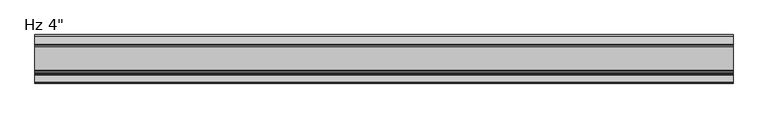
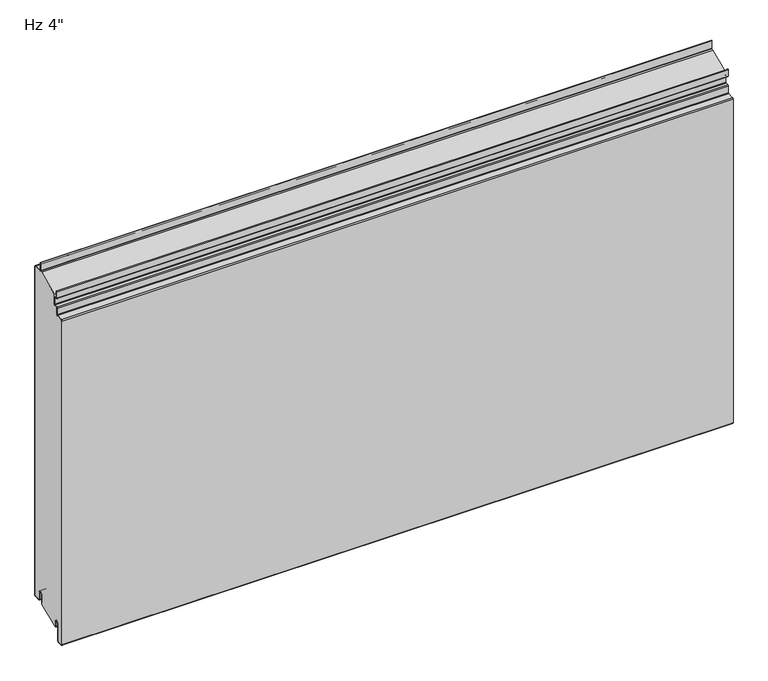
"""IFC4 building model written with IfcOpenShell, lengths in millimetres: plate geometry."""

from ifc_helpers import new_model, si_unit, point, frame, frame_2d, origin, place, context, project, spatial, polyline, circle_curve, ellipse_curve, trimmed, segment, composite_curve, outline, extrude, source, transform, mapped, element, save
from ifc_brep_helpers import plane_surface, cylinder_surface, revolved_surface, extruded_surface, advanced_brep


def plate_ab7d0304(model_context):
    return source(origin(), model_context, "Body", "SolidModel", [
        extrude(outline(composite_curve([segment(trimmed(circle_curve(frame_2d((-21.43125, 19.05)), 4.96875), [point((-16.4625, 19.05))], [point((-26.4, 19.05))], True, "CARTESIAN"), True, "CONTINUOUS"), segment(polyline([(-26.4, 19.05), (-26.4, -3.1323422), (-74.6157227, -23.01875), (-76.2, -23.01875), (-76.2, -13.5080174), (-76.99375, -13.5080174), (-76.7875, -11.9205174)]), True, "CONTINUOUS"), segment(trimmed(circle_curve(frame_2d((-81.75625, -11.9205174)), 4.96875), [point((-76.7875, -11.9205174))], [point((-86.725, -11.9205174))], True, "CARTESIAN"), True, "CONTINUOUS"), segment(polyline([(-86.725, -11.9205174), (-86.725, -50.1038221)]), True, "CONTINUOUS"), segment(trimmed(circle_curve(frame_2d((-88.10625, -50.1038221)), 1.38125), [point((-86.725, -50.1038221))], [point((-88.033961, -51.4831791))], False, "CARTESIAN"), True, "CONTINUOUS"), segment(polyline([(-88.033961, -51.4831791), (-99.146461, -52.0655606)]), True, "CONTINUOUS"), segment(trimmed(circle_curve(frame_2d((-99.21875, -50.6862035)), 1.38125), [point((-99.146461, -52.0655606))], [point((-100.6, -50.6862035))], False, "CARTESIAN"), True, "CONTINUOUS"), segment(polyline([(-100.6, -50.6862035), (-100.6, 693.8447607)]), True, "CONTINUOUS"), segment(trimmed(circle_curve(frame_2d((-99.21875, 693.8447607)), 1.38125), [point((-100.6, 693.8447607))], [point((-99.291039, 695.2241177))], False, "CARTESIAN"), True, "CONTINUOUS"), segment(polyline([(-99.291039, 695.2241177), (-85.5895807, 695.9421807)]), True, "CONTINUOUS"), segment(trimmed(circle_curve(frame_2d((-85.725, 698.5261347)), 2.5875), [point((-85.5895807, 695.9421807))], [point((-83.1375, 698.5261347))], True, "CARTESIAN"), True, "CONTINUOUS"), segment(polyline([(-83.1375, 698.5261347), (-83.1375, 712.6824411)]), True, "CONTINUOUS"), segment(trimmed(circle_curve(frame_2d((-81.75625, 712.6824411)), 1.38125), [point((-83.1375, 712.6824411))], [point((-81.828539, 714.0617981))], False, "CARTESIAN"), True, "CONTINUOUS"), segment(polyline([(-81.828539, 714.0617981), (-76.0645807, 714.3638744)]), True, "CONTINUOUS"), segment(trimmed(circle_curve(frame_2d((-76.2, 716.9478283)), 2.5875), [point((-76.0645807, 714.3638744))], [point((-73.6125, 716.9478283))], True, "CARTESIAN"), True, "CONTINUOUS"), segment(polyline([(-73.6125, 716.9478283), (-73.6125, 739.3892934), (-24.9057308, 760.20625), (-2.38125, 760.20625)]), True, "CONTINUOUS"), segment(trimmed(circle_curve(frame_2d((-2.38125, 758.825)), 1.38125), [point((-2.38125, 760.20625))], [point((-1.0, 758.825))], False, "CARTESIAN"), True, "CONTINUOUS"), segment(polyline([(-1.0, 758.825), (-1.0, 3.175)]), True, "CONTINUOUS"), segment(trimmed(circle_curve(frame_2d((-2.38125, 3.175)), 1.38125), [point((-1.0, 3.175))], [point((-2.38125, 1.79375))], False, "CARTESIAN"), True, "CONTINUOUS"), segment(polyline([(-2.38125, 1.79375), (-15.08125, 1.79375)]), True, "CONTINUOUS"), segment(trimmed(circle_curve(frame_2d((-15.08125, 3.175)), 1.38125), [point((-15.08125, 1.79375))], [point((-16.4625, 3.175))], False, "CARTESIAN"), True, "CONTINUOUS"), segment(polyline([(-16.4625, 3.175), (-16.4625, 19.05)]), True, "CONTINUOUS")], self_intersect=False)), frame((-730.0, 0.0, 0.0), z_axis=(1.0, 0.0, 0.0), x_axis=(0.0, 1.0, 0.0)), (0.0, 0.0, 1.0), 1460.0),
        extrude(outline(composite_curve([segment(polyline([(-25.4, 0.79375), (-26.4, 0.79375), (-26.4, 19.05)]), True, "CONTINUOUS"), segment(trimmed(circle_curve(frame_2d((-21.43125, 19.05)), 4.96875), [point((-26.4, 19.05))], [point((-16.4625, 19.05))], False, "CARTESIAN"), True, "CONTINUOUS"), segment(polyline([(-16.4625, 19.05), (-16.4625, 3.175)]), True, "CONTINUOUS"), segment(trimmed(circle_curve(frame_2d((-15.08125, 3.175)), 1.38125), [point((-16.4625, 3.175))], [point((-15.08125, 1.79375))], True, "CARTESIAN"), True, "CONTINUOUS"), segment(polyline([(-15.08125, 1.79375), (-2.38125, 1.79375)]), True, "CONTINUOUS"), segment(trimmed(circle_curve(frame_2d((-2.38125, 3.175)), 1.38125), [point((-2.38125, 1.79375))], [point((-1.0, 3.175))], True, "CARTESIAN"), True, "CONTINUOUS"), segment(polyline([(-1.0, 3.175), (-1.0, 758.825)]), True, "CONTINUOUS"), segment(trimmed(circle_curve(frame_2d((-2.38125, 758.825)), 1.38125), [point((-1.0, 758.825))], [point((-2.38125, 760.20625))], True, "CARTESIAN"), True, "CONTINUOUS"), segment(polyline([(-2.38125, 760.20625), (-19.446875, 760.20625)]), True, "CONTINUOUS"), segment(trimmed(circle_curve(frame_2d((-19.446875, 762.79375)), 2.5875), [point((-19.446875, 760.20625))], [point((-22.034375, 762.79375))], False, "CARTESIAN"), True, "CONTINUOUS"), segment(polyline([(-22.034375, 762.79375), (-22.034375, 780.25625), (-21.034375, 780.25625), (-21.034375, 762.79375)]), True, "CONTINUOUS"), segment(trimmed(circle_curve(frame_2d((-19.446875, 762.79375)), 1.5875), [point((-21.034375, 762.79375))], [point((-19.446875, 761.20625))], True, "CARTESIAN"), True, "CONTINUOUS"), segment(polyline([(-19.446875, 761.20625), (-2.38125, 761.20625)]), True, "CONTINUOUS"), segment(trimmed(circle_curve(frame_2d((-2.38125, 758.825)), 2.38125), [point((-2.38125, 761.20625))], [point((0.0, 758.825))], False, "CARTESIAN"), True, "CONTINUOUS"), segment(polyline([(0.0, 758.825), (0.0, 3.175)]), True, "CONTINUOUS"), segment(trimmed(circle_curve(frame_2d((-2.38125, 3.175)), 2.38125), [point((0.0, 3.175))], [point((-2.38125, 0.79375))], False, "CARTESIAN"), True, "CONTINUOUS"), segment(polyline([(-2.38125, 0.79375), (-15.08125, 0.79375)]), True, "CONTINUOUS"), segment(trimmed(circle_curve(frame_2d((-15.08125, 3.175)), 2.38125), [point((-15.08125, 0.79375))], [point((-17.4625, 3.175))], False, "CARTESIAN"), True, "CONTINUOUS"), segment(polyline([(-17.4625, 3.175), (-17.4625, 19.05)]), True, "CONTINUOUS"), segment(trimmed(circle_curve(frame_2d((-21.43125, 19.05)), 3.96875), [point((-17.4625, 19.05))], [point((-25.4, 19.05))], True, "CARTESIAN"), True, "CONTINUOUS"), segment(polyline([(-25.4, 19.05), (-25.4, 0.79375)]), True, "CONTINUOUS")], self_intersect=False)), frame((-730.0, 0.0, 0.0), z_axis=(1.0, 0.0, 0.0), x_axis=(0.0, 1.0, 0.0)), (0.0, 0.0, 1.0), 1460.0),
        advanced_brep(
        [(-730.0, -76.2, -23.2314549), (-730.0, -77.7875, -23.2314549), (-730.0, -77.7875, -11.9205174), (-730.0, -85.725, -11.9205174), (-730.0, -85.725, -50.1038221), (-730.0, -87.981625, -52.4818086), (-730.0, -99.094125, -53.0641901), (-730.0, -101.6, -50.6862035), (-730.0, -101.6, 693.8447607), (-730.0, -99.343375, 696.2227473), (-730.0, -85.6419167, 696.9408103), (-730.0, -84.1375, 698.5261347), (-730.0, -84.1375, 712.6824411), (-730.0, -81.880875, 715.0604276), (-730.0, -76.1169167, 715.3625039), (-730.0, -74.6125, 716.9478283), (-730.0, -74.6125, 731.8232326), (-730.0, -76.2, 733.4107326), (-730.0, -80.3671875, 733.4107326), (-730.0, -82.7484375, 735.7919826), (-730.0, -82.7484375, 750.2836032), (-730.0, -80.9546875, 750.2836032), (-730.0, -80.9546875, 740.5544826), (-730.0, -81.7484375, 740.5544826), (-730.0, -81.7484375, 735.7919826), (-730.0, -80.3671875, 734.4107326), (-730.0, -76.2, 734.4107326), (-730.0, -73.6125, 731.8232326), (-730.0, -73.6125, 716.9478283), (-730.0, -76.0645807, 714.3638744), (-730.0, -81.828539, 714.0617981), (-730.0, -83.1375, 712.6824411), (-730.0, -83.1375, 698.5261347), (-730.0, -85.5895807, 695.9421807), (-730.0, -99.291039, 695.2241177), (-730.0, -100.6, 693.8447607), (-730.0, -100.6, -50.6862035), (-730.0, -99.146461, -52.0655606), (-730.0, -88.033961, -51.4831791), (-730.0, -86.725, -50.1038221), (-730.0, -86.725, -11.9205174), (-730.0, -76.7875, -11.9205174), (-730.0, -76.99375, -13.5080174), (-730.0, -76.2, -13.5080174), (730.0, -76.2, -23.2314549), (730.0, -76.2, -13.5080174), (730.0, -76.99375, -13.5080174), (730.0, -76.7875, -11.9205174), (730.0, -86.725, -11.9205174), (730.0, -86.725, -50.1038221), (730.0, -88.033961, -51.4831791), (730.0, -99.146461, -52.0655606), (730.0, -100.6, -50.6862035), (730.0, -100.6, 693.8447607), (730.0, -99.291039, 695.2241177), (730.0, -85.5895807, 695.9421807), (730.0, -83.1375, 698.5261347), (730.0, -83.1375, 712.6824411), (730.0, -81.828539, 714.0617981), (730.0, -76.0645807, 714.3638744), (730.0, -73.6125, 716.9478283), (730.0, -73.6125, 731.8232326), (730.0, -76.2, 734.4107326), (730.0, -80.3671875, 734.4107326), (730.0, -81.7484375, 735.7919826), (730.0, -81.7484375, 740.5544826), (730.0, -80.9546875, 740.5544826), (730.0, -80.9546875, 750.2836032), (730.0, -82.7484375, 750.2836032), (730.0, -82.7484375, 735.7919826), (730.0, -80.3671875, 733.4107326), (730.0, -76.2, 733.4107326), (730.0, -74.6125, 731.8232326), (730.0, -74.6125, 716.9478283), (730.0, -76.1169167, 715.3625039), (730.0, -81.880875, 715.0604276), (730.0, -84.1375, 712.6824411), (730.0, -84.1375, 698.5261347), (730.0, -85.6419167, 696.9408103), (730.0, -99.343375, 696.2227473), (730.0, -101.6, 693.8447607), (730.0, -101.6, -50.6862035), (730.0, -99.094125, -53.0641901), (730.0, -87.981625, -52.4818086), (730.0, -85.725, -50.1038221), (730.0, -85.725, -11.9205174), (730.0, -77.7875, -11.9205174), (730.0, -77.7875, -23.2314549)],
        [
            (0, 1, circle_curve(frame((-730.0, -76.99375, -23.2314549), z_axis=(-1.0, 0.0, 0.0), x_axis=(0.0, 0.0, -1.0)), 0.79375)),
            (1, 2),
            (2, 3, circle_curve(frame((-730.0, -81.75625, -11.9205174), z_axis=(1.0, 0.0, 0.0), x_axis=(0.0, 0.0, -1.0)), 3.96875)),
            (3, 4),
            (4, 5, circle_curve(frame((-730.0, -88.10625, -50.1038221), z_axis=(-1.0, 0.0, 0.0), x_axis=(0.0, 0.0, -1.0)), 2.38125)),
            (5, 6),
            (6, 7, circle_curve(frame((-730.0, -99.21875, -50.6862035), z_axis=(-1.0, 0.0, 0.0), x_axis=(0.0, 0.0, -1.0)), 2.38125)),
            (7, 8),
            (8, 9, circle_curve(frame((-730.0, -99.21875, 693.8447607), z_axis=(-1.0, 0.0, 0.0), x_axis=(0.0, 0.0, -1.0)), 2.38125)),
            (9, 10),
            (10, 11, circle_curve(frame((-730.0, -85.725, 698.5261347), z_axis=(1.0, 0.0, 0.0), x_axis=(0.0, 0.0, -1.0)), 1.5875)),
            (11, 12),
            (12, 13, circle_curve(frame((-730.0, -81.75625, 712.6824411), z_axis=(-1.0, 0.0, 0.0), x_axis=(0.0, 0.0, -1.0)), 2.38125)),
            (13, 14),
            (14, 15, circle_curve(frame((-730.0, -76.2, 716.9478283), z_axis=(1.0, 0.0, 0.0), x_axis=(0.0, 0.0, -1.0)), 1.5875)),
            (15, 16),
            (16, 17, circle_curve(frame((-730.0, -76.2, 731.8232326), z_axis=(1.0, 0.0, 0.0), x_axis=(0.0, 0.0, -1.0)), 1.5875)),
            (17, 18),
            (18, 19, circle_curve(frame((-730.0, -80.3671875, 735.7919826), z_axis=(-1.0, 0.0, 0.0), x_axis=(0.0, 0.0, -1.0)), 2.38125)),
            (19, 20),
            (20, 21, ellipse_curve(frame((-730.0, -81.8515625, 750.2836032), z_axis=(-1.0, 0.0, 0.0), x_axis=(0.0, 1.0, 0.0)), 0.896875, 0.7852275)),
            (21, 22),
            (22, 23),
            (23, 24),
            (24, 25, circle_curve(frame((-730.0, -80.3671875, 735.7919826), z_axis=(1.0, 0.0, 0.0), x_axis=(0.0, 0.0, -1.0)), 1.38125)),
            (25, 26),
            (26, 27, circle_curve(frame((-730.0, -76.2, 731.8232326), z_axis=(-1.0, 0.0, 0.0), x_axis=(0.0, 0.0, -1.0)), 2.5875)),
            (27, 28),
            (28, 29, circle_curve(frame((-730.0, -76.2, 716.9478283), z_axis=(-1.0, 0.0, 0.0), x_axis=(0.0, 0.0, -1.0)), 2.5875)),
            (29, 30),
            (30, 31, circle_curve(frame((-730.0, -81.75625, 712.6824411), z_axis=(1.0, 0.0, 0.0), x_axis=(0.0, 0.0, -1.0)), 1.38125)),
            (31, 32),
            (32, 33, circle_curve(frame((-730.0, -85.725, 698.5261347), z_axis=(-1.0, 0.0, 0.0), x_axis=(0.0, 0.0, -1.0)), 2.5875)),
            (33, 34),
            (34, 35, circle_curve(frame((-730.0, -99.21875, 693.8447607), z_axis=(1.0, 0.0, 0.0), x_axis=(0.0, 0.0, -1.0)), 1.38125)),
            (35, 36),
            (36, 37, circle_curve(frame((-730.0, -99.21875, -50.6862035), z_axis=(1.0, 0.0, 0.0), x_axis=(0.0, 0.0, -1.0)), 1.38125)),
            (37, 38),
            (38, 39, circle_curve(frame((-730.0, -88.10625, -50.1038221), z_axis=(1.0, 0.0, 0.0), x_axis=(0.0, 0.0, -1.0)), 1.38125)),
            (39, 40),
            (40, 41, circle_curve(frame((-730.0, -81.75625, -11.9205174), z_axis=(-1.0, 0.0, 0.0), x_axis=(0.0, 0.0, -1.0)), 4.96875)),
            (41, 42),
            (42, 43),
            (43, 0),
            (44, 45),
            (45, 46),
            (46, 47),
            (47, 48, circle_curve(frame((730.0, -81.75625, -11.9205174), z_axis=(1.0, 0.0, 0.0), x_axis=(0.0, 0.0, -1.0)), 4.96875)),
            (48, 49),
            (49, 50, circle_curve(frame((730.0, -88.10625, -50.1038221), z_axis=(-1.0, 0.0, 0.0), x_axis=(0.0, 0.0, -1.0)), 1.38125)),
            (50, 51),
            (51, 52, circle_curve(frame((730.0, -99.21875, -50.6862035), z_axis=(-1.0, 0.0, 0.0), x_axis=(0.0, 0.0, -1.0)), 1.38125)),
            (52, 53),
            (53, 54, circle_curve(frame((730.0, -99.21875, 693.8447607), z_axis=(-1.0, 0.0, 0.0), x_axis=(0.0, 0.0, -1.0)), 1.38125)),
            (54, 55),
            (55, 56, circle_curve(frame((730.0, -85.725, 698.5261347), z_axis=(1.0, 0.0, 0.0), x_axis=(0.0, 0.0, -1.0)), 2.5875)),
            (56, 57),
            (57, 58, circle_curve(frame((730.0, -81.75625, 712.6824411), z_axis=(-1.0, 0.0, 0.0), x_axis=(0.0, 0.0, -1.0)), 1.38125)),
            (58, 59),
            (59, 60, circle_curve(frame((730.0, -76.2, 716.9478283), z_axis=(1.0, 0.0, 0.0), x_axis=(0.0, 0.0, -1.0)), 2.5875)),
            (60, 61),
            (61, 62, circle_curve(frame((730.0, -76.2, 731.8232326), z_axis=(1.0, 0.0, 0.0), x_axis=(0.0, 0.0, -1.0)), 2.5875)),
            (62, 63),
            (63, 64, circle_curve(frame((730.0, -80.3671875, 735.7919826), z_axis=(-1.0, 0.0, 0.0), x_axis=(0.0, 0.0, -1.0)), 1.38125)),
            (64, 65),
            (65, 66),
            (66, 67),
            (67, 68, ellipse_curve(frame((730.0, -81.8515625, 750.2836032), z_axis=(1.0, 0.0, 0.0), x_axis=(0.0, 1.0, 0.0)), 0.896875, 0.7852275)),
            (68, 69),
            (69, 70, circle_curve(frame((730.0, -80.3671875, 735.7919826), z_axis=(1.0, 0.0, 0.0), x_axis=(0.0, 0.0, -1.0)), 2.38125)),
            (70, 71),
            (71, 72, circle_curve(frame((730.0, -76.2, 731.8232326), z_axis=(-1.0, 0.0, 0.0), x_axis=(0.0, 0.0, -1.0)), 1.5875)),
            (72, 73),
            (73, 74, circle_curve(frame((730.0, -76.2, 716.9478283), z_axis=(-1.0, 0.0, 0.0), x_axis=(0.0, 0.0, -1.0)), 1.5875)),
            (74, 75),
            (75, 76, circle_curve(frame((730.0, -81.75625, 712.6824411), z_axis=(1.0, 0.0, 0.0), x_axis=(0.0, 0.0, -1.0)), 2.38125)),
            (76, 77),
            (77, 78, circle_curve(frame((730.0, -85.725, 698.5261347), z_axis=(-1.0, 0.0, 0.0), x_axis=(0.0, 0.0, -1.0)), 1.5875)),
            (78, 79),
            (79, 80, circle_curve(frame((730.0, -99.21875, 693.8447607), z_axis=(1.0, 0.0, 0.0), x_axis=(0.0, 0.0, -1.0)), 2.38125)),
            (80, 81),
            (81, 82, circle_curve(frame((730.0, -99.21875, -50.6862035), z_axis=(1.0, 0.0, 0.0), x_axis=(0.0, 0.0, -1.0)), 2.38125)),
            (82, 83),
            (83, 84, circle_curve(frame((730.0, -88.10625, -50.1038221), z_axis=(1.0, 0.0, 0.0), x_axis=(0.0, 0.0, -1.0)), 2.38125)),
            (84, 85),
            (85, 86, circle_curve(frame((730.0, -81.75625, -11.9205174), z_axis=(-1.0, 0.0, 0.0), x_axis=(0.0, 0.0, -1.0)), 3.96875)),
            (86, 87),
            (87, 44, circle_curve(frame((730.0, -76.99375, -23.2314549), z_axis=(1.0, 0.0, 0.0), x_axis=(0.0, 0.0, -1.0)), 0.79375)),
            (36, 52),
            (51, 37),
            (50, 38),
            (49, 39),
            (48, 40),
            (47, 41),
            (42, 46),
            (45, 43),
            (22, 66),
            (65, 23),
            (21, 67),
            (20, 68),
            (34, 54),
            (53, 35),
            (32, 56),
            (55, 33),
            (30, 58),
            (57, 31),
            (28, 60),
            (59, 29),
            (24, 64),
            (63, 25),
            (26, 62),
            (61, 27),
            (19, 69),
            (17, 71),
            (70, 18),
            (15, 73),
            (72, 16),
            (13, 75),
            (74, 14),
            (11, 77),
            (76, 12),
            (9, 79),
            (78, 10),
            (7, 81),
            (80, 8),
            (5, 83),
            (82, 6),
            (3, 85),
            (84, 4),
            (1, 87),
            (86, 2),
            (44, 0),
        ],
        [
            plane_surface(frame((-730.0, -101.6, 381.0), z_axis=(-1.0, 0.0, 0.0), x_axis=(0.0, -1.0, 0.0))),
            plane_surface(frame((730.0, -101.6, 381.0), z_axis=(1.0, 0.0, 0.0), x_axis=(0.0, -1.0, 0.0))),
            revolved_surface(polyline([(730.0, -99.21875, -52.0674535), (-730.0, -99.21875, -52.0674535)]), (-730.0, -99.21875, -50.6862035), (1.0, 0.0, 0.0)),
            plane_surface(frame((-730.0, -88.033961, -51.4831791), z_axis=(0.0, -0.05233595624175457, 0.9986295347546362), x_axis=(1.0, 0.0, 0.0))),
            revolved_surface(polyline([(730.0, -88.10625, -51.485072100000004), (-730.0, -88.10625, -51.485072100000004)]), (-730.0, -88.10625, -50.1038221), (1.0, 0.0, 0.0)),
            plane_surface(frame((-730.0, -86.725, -11.9205174), z_axis=(0.0, -1.0, 0.0), x_axis=(1.0, 0.0, 0.0))),
            cylinder_surface(frame((-730.0, -81.75625, -11.9205174), z_axis=(-1.0, 0.0, 0.0), x_axis=(0.0, 0.0, -1.0)), 4.96875),
            plane_surface(frame((-730.0, -76.2, -13.5080174), z_axis=(0.0, 0.0, 1.0), x_axis=(1.0, 0.0, 0.0))),
            plane_surface(frame((-730.0, -76.99375, -13.5080174), z_axis=(0.0, 0.9916655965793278, -0.12883844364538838), x_axis=(1.0, 0.0, 0.0))),
            plane_surface(frame((-730.0, -81.7484375, 740.5544826), z_axis=(0.0, 0.0, -1.0), x_axis=(1.0, 0.0, 0.0))),
            plane_surface(frame((-730.0, -80.9546875, 740.5544826), z_axis=(0.0, 1.0, 0.0), x_axis=(1.0, 0.0, 0.0))),
            extruded_surface(trimmed(ellipse_curve(frame((-730.0, -81.8515625, 750.2836032), z_axis=(1.0, 0.0, 0.0), x_axis=(0.0, 1.0, 0.0)), 0.896875, 0.7852275), [point((-730.0, -80.9546875, 750.2836032))], [point((-730.0, -82.7484375, 750.2836032))], True, "CARTESIAN"), (1460.0, 0.0, 0.0), 1460.0),
            revolved_surface(polyline([(730.0, -99.21875, 692.4635107), (-730.0, -99.21875, 692.4635107)]), (-730.0, -99.21875, 693.8447607), (1.0, 0.0, 0.0)),
            cylinder_surface(frame((-730.0, -85.725, 698.5261347), z_axis=(-1.0, 0.0, 0.0), x_axis=(0.0, 0.0, -1.0)), 2.5875),
            plane_surface(frame((-730.0, -99.291039, 695.2241177), z_axis=(0.0, 0.05233595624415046, -0.9986295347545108), x_axis=(1.0, 0.0, 0.0))),
            plane_surface(frame((-730.0, -100.6, -50.6862035), z_axis=(0.0, 1.0, 0.0), x_axis=(1.0, 0.0, 0.0))),
            revolved_surface(polyline([(730.0, -81.75625, 711.3011911), (-730.0, -81.75625, 711.3011911)]), (-730.0, -81.75625, 712.6824411), (1.0, 0.0, 0.0)),
            cylinder_surface(frame((-730.0, -76.2, 716.9478283), z_axis=(-1.0, 0.0, 0.0), x_axis=(0.0, 0.0, -1.0)), 2.5875),
            plane_surface(frame((-730.0, -81.828539, 714.0617981), z_axis=(0.0, 0.052335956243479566, -0.9986295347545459), x_axis=(1.0, 0.0, 0.0))),
            plane_surface(frame((-730.0, -83.1375, 698.5261347), z_axis=(0.0, 1.0, 0.0), x_axis=(1.0, 0.0, 0.0))),
            revolved_surface(polyline([(730.0, -80.3671875, 734.4107326), (-730.0, -80.3671875, 734.4107326)]), (-730.0, -80.3671875, 735.7919826), (1.0, 0.0, 0.0)),
            cylinder_surface(frame((-730.0, -76.2, 731.8232326), z_axis=(-1.0, 0.0, 0.0), x_axis=(0.0, 0.0, -1.0)), 2.5875),
            plane_surface(frame((-730.0, -76.2, 734.4107326), z_axis=(0.0, 0.0, 1.0), x_axis=(1.0, 0.0, 0.0))),
            plane_surface(frame((-730.0, -81.7484375, 735.7919826), z_axis=(0.0, 1.0, 0.0), x_axis=(1.0, 0.0, 0.0))),
            plane_surface(frame((-730.0, -82.7484375, 750.2836032), z_axis=(0.0, -1.0, 0.0), x_axis=(1.0, 0.0, 0.0))),
            plane_surface(frame((-730.0, -80.3671875, 733.4107326), z_axis=(0.0, 0.0, -1.0), x_axis=(1.0, 0.0, 0.0))),
            cylinder_surface(frame((-730.0, -80.3671875, 735.7919826), z_axis=(-1.0, 0.0, 0.0), x_axis=(0.0, 0.0, -1.0)), 2.38125),
            plane_surface(frame((-730.0, -73.6125, 716.9478283), z_axis=(0.0, 1.0, 0.0), x_axis=(1.0, 0.0, 0.0))),
            plane_surface(frame((-730.0, -74.6125, 731.8232326), z_axis=(0.0, -1.0, 0.0), x_axis=(1.0, 0.0, 0.0))),
            plane_surface(frame((-730.0, -76.1169167, 715.3625039), z_axis=(0.0, -0.05233595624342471, 0.9986295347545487), x_axis=(1.0, 0.0, 0.0))),
            revolved_surface(polyline([(730.0, -76.2, 715.3603283), (-730.0, -76.2, 715.3603283)]), (-730.0, -76.2, 716.9478283), (1.0, 0.0, 0.0)),
            revolved_surface(polyline([(730.0, -76.2, 730.2357326), (-730.0, -76.2, 730.2357326)]), (-730.0, -76.2, 731.8232326), (1.0, 0.0, 0.0)),
            plane_surface(frame((-730.0, -84.1375, 712.6824411), z_axis=(0.0, -1.0, 0.0), x_axis=(1.0, 0.0, 0.0))),
            plane_surface(frame((-730.0, -85.6419167, 696.9408103), z_axis=(0.0, -0.0523359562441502, 0.9986295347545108), x_axis=(1.0, 0.0, 0.0))),
            revolved_surface(polyline([(730.0, -85.725, 696.9386347), (-730.0, -85.725, 696.9386347)]), (-730.0, -85.725, 698.5261347), (1.0, 0.0, 0.0)),
            cylinder_surface(frame((-730.0, -81.75625, 712.6824411), z_axis=(-1.0, 0.0, 0.0), x_axis=(0.0, 0.0, -1.0)), 2.38125),
            plane_surface(frame((-730.0, -101.6, 693.8447607), z_axis=(0.0, -1.0, 0.0), x_axis=(1.0, 0.0, 0.0))),
            plane_surface(frame((-730.0, -99.094125, -53.0641901), z_axis=(0.0, 0.05233595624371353, -0.9986295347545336), x_axis=(1.0, 0.0, 0.0))),
            cylinder_surface(frame((-730.0, -99.21875, -50.6862035), z_axis=(-1.0, 0.0, 0.0), x_axis=(0.0, 0.0, -1.0)), 2.38125),
            cylinder_surface(frame((-730.0, -99.21875, 693.8447607), z_axis=(-1.0, 0.0, 0.0), x_axis=(0.0, 0.0, -1.0)), 2.38125),
            plane_surface(frame((-730.0, -85.725, -50.1038221), z_axis=(0.0, 1.0, 0.0), x_axis=(1.0, 0.0, 0.0))),
            plane_surface(frame((-730.0, -77.7875, -11.9205174), z_axis=(0.0, -1.0, 0.0), x_axis=(1.0, 0.0, 0.0))),
            revolved_surface(polyline([(730.0, -81.75625, -15.8892674), (-730.0, -81.75625, -15.8892674)]), (-730.0, -81.75625, -11.9205174), (1.0, 0.0, 0.0)),
            cylinder_surface(frame((-730.0, -88.10625, -50.1038221), z_axis=(-1.0, 0.0, 0.0), x_axis=(0.0, 0.0, -1.0)), 2.38125),
            plane_surface(frame((-730.0, -76.2, -23.2314549), z_axis=(0.0, 1.0, 0.0), x_axis=(1.0, 0.0, 0.0))),
            cylinder_surface(frame((-730.0, -76.99375, -23.2314549), z_axis=(-1.0, 0.0, 0.0), x_axis=(0.0, 0.0, -1.0)), 0.79375),
        ],
        [
            (0, [[1, 2, 3, 4, 5, 6, 7, 8, 9, 10, 11, 12, 13, 14, 15, 16, 17, 18, 19, 20, 21, 22, 23, 24, 25, 26, 27, 28, 29, 30, 31, 32, 33, 34, 35, 36, 37, 38, 39, 40, 41, 42, 43, 44]]),
            (1, [[45, 46, 47, 48, 49, 50, 51, 52, 53, 54, 55, 56, 57, 58, 59, 60, 61, 62, 63, 64, 65, 66, 67, 68, 69, 70, 71, 72, 73, 74, 75, 76, 77, 78, 79, 80, 81, 82, 83, 84, 85, 86, 87, 88]]),
            (2, [[89, -52, 90, -37]]),
            (3, [[-90, -51, 91, -38]]),
            (4, [[-91, -50, 92, -39]]),
            (5, [[-92, -49, 93, -40]]),
            (6, [[-93, -48, 94, -41]]),
            (7, [[95, -46, 96, -43]]),
            (8, [[-94, -47, -95, -42]]),
            (9, [[97, -66, 98, -23]]),
            (10, [[99, -67, -97, -22]]),
            (11, [[100, -68, -99, -21]]),
            (12, [[101, -54, 102, -35]]),
            (13, [[103, -56, 104, -33]]),
            (14, [[-104, -55, -101, -34]]),
            (15, [[-102, -53, -89, -36]]),
            (16, [[105, -58, 106, -31]]),
            (17, [[107, -60, 108, -29]]),
            (18, [[-108, -59, -105, -30]]),
            (19, [[-106, -57, -103, -32]]),
            (20, [[109, -64, 110, -25]]),
            (21, [[111, -62, 112, -27]]),
            (22, [[-110, -63, -111, -26]]),
            (23, [[-98, -65, -109, -24]]),
            (24, [[113, -69, -100, -20]]),
            (25, [[114, -71, 115, -18]]),
            (26, [[-115, -70, -113, -19]]),
            (27, [[-112, -61, -107, -28]]),
            (28, [[116, -73, 117, -16]]),
            (29, [[118, -75, 119, -14]]),
            (30, [[-119, -74, -116, -15]]),
            (31, [[-117, -72, -114, -17]]),
            (32, [[120, -77, 121, -12]]),
            (33, [[122, -79, 123, -10]]),
            (34, [[-123, -78, -120, -11]]),
            (35, [[-121, -76, -118, -13]]),
            (36, [[124, -81, 125, -8]]),
            (37, [[126, -83, 127, -6]]),
            (38, [[-127, -82, -124, -7]]),
            (39, [[-125, -80, -122, -9]]),
            (40, [[128, -85, 129, -4]]),
            (41, [[130, -87, 131, -2]]),
            (42, [[-131, -86, -128, -3]]),
            (43, [[-129, -84, -126, -5]]),
            (44, [[-96, -45, 132, -44]]),
            (45, [[-132, -88, -130, -1]]),
        ],
    ),
    ])


if __name__ == "__main__":
    model = new_model("IFC4")
    model_context = context("Model", 3, world=origin())
    ifc_project = project(units=[si_unit("LENGTHUNIT", "METRE", prefix="MILLI")], contexts=[model_context])
    site = spatial("IfcSite", under=ifc_project)
    building = spatial("IfcBuilding", under=site)
    placement = place(None, origin())
    plate_shape = plate_ab7d0304(model_context)
    element("IfcPlate", 1, ObjectType="KIP-30-DWHR-R19-CP-Hz-F : Hz 4\"", at=placement, inside=building, context=model_context, shape_type="MappedRepresentation", body=[
        mapped(plate_shape, transform((0.0, 0.0, 0.0), x_axis=(1.0, 0.0, 0.0), y_axis=(0.0, 1.0, 0.0), z_axis=(0.0, 0.0, 1.0))),
    ])
    save(model, "model.ifc")
